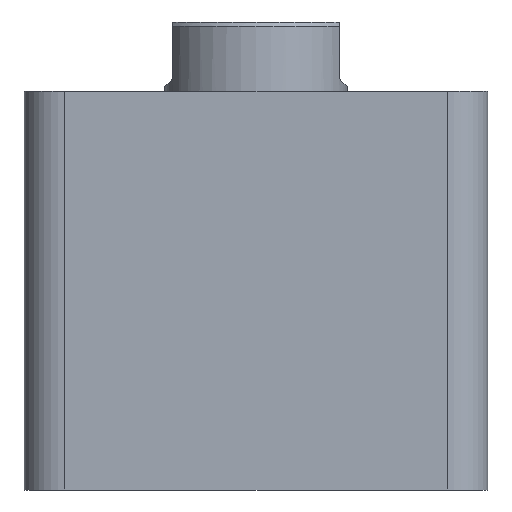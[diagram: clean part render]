
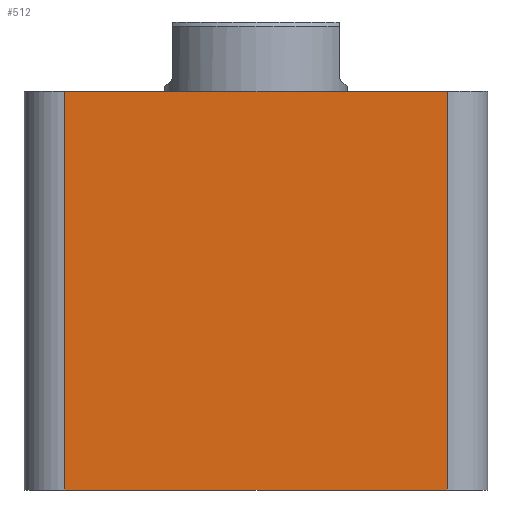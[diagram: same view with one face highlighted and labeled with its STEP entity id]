
A CAD part, front view. The second image highlights one B-rep face of the part: STEP entity #512.
In plain terms, the highlighted planar face has unit normal (0, -1, 0).
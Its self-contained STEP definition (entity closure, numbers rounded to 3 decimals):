
#216 = VERTEX_POINT ( 'NONE', #345 ) ;
#217 = VERTEX_POINT ( 'NONE', #332 ) ;
#219 = VERTEX_POINT ( 'NONE', #338 ) ;
#230 = VERTEX_POINT ( 'NONE', #433 ) ;
#332 = CARTESIAN_POINT ( 'NONE',  ( -47., -57., 98. ) ) ;
#338 = CARTESIAN_POINT ( 'NONE',  ( 47., -57., 0. ) ) ;
#345 = CARTESIAN_POINT ( 'NONE',  ( 47., -57., 98. ) ) ;
#433 = CARTESIAN_POINT ( 'NONE',  ( -47., -57., 0. ) ) ;
#444 = LINE ( 'NONE', #2296, #687 ) ;
#467 = VECTOR ( 'NONE', #2295, 1000. ) ;
#468 = LINE ( 'NONE', #2283, #467 ) ;
#512 = ADVANCED_FACE ( 'NONE', ( #699 ), #1236, .F. ) ;
#648 = LINE ( 'NONE', #2298, #893 ) ;
#687 = VECTOR ( 'NONE', #2297, 1000. ) ;
#699 = FACE_OUTER_BOUND ( 'NONE', #2496, .T. ) ;
#893 = VECTOR ( 'NONE', #2299, 1000. ) ;
#912 = AXIS2_PLACEMENT_3D ( 'NONE', #1228, #1238, #1239 ) ;
#1127 = ORIENTED_EDGE ( 'NONE', *, *, #1481, .T. ) ;
#1130 = ORIENTED_EDGE ( 'NONE', *, *, #1482, .T. ) ;
#1131 = ORIENTED_EDGE ( 'NONE', *, *, #1483, .F. ) ;
#1132 = ORIENTED_EDGE ( 'NONE', *, *, #1484, .T. ) ;
#1211 = VECTOR ( 'NONE', #2294, 1000. ) ;
#1228 = CARTESIAN_POINT ( 'NONE',  ( -57., -57., 98. ) ) ;
#1236 = PLANE ( 'NONE',  #912 ) ;
#1238 = DIRECTION ( 'NONE',  ( 0., 1., 0. ) ) ;
#1239 = DIRECTION ( 'NONE',  ( 0., 0., 1. ) ) ;
#1481 = EDGE_CURVE ( 'NONE', #230, #219, #2647, .T. ) ;
#1482 = EDGE_CURVE ( 'NONE', #219, #216, #468, .T. ) ;
#1483 = EDGE_CURVE ( 'NONE', #217, #216, #444, .T. ) ;
#1484 = EDGE_CURVE ( 'NONE', #217, #230, #648, .T. ) ;
#2283 = CARTESIAN_POINT ( 'NONE',  ( 47., -57., 98. ) ) ;
#2293 = CARTESIAN_POINT ( 'NONE',  ( -57., -57., 0. ) ) ;
#2294 = DIRECTION ( 'NONE',  ( 1., 0., 0. ) ) ;
#2295 = DIRECTION ( 'NONE',  ( 0., 0., 1. ) ) ;
#2296 = CARTESIAN_POINT ( 'NONE',  ( -57., -57., 98. ) ) ;
#2297 = DIRECTION ( 'NONE',  ( 1., 0., 0. ) ) ;
#2298 = CARTESIAN_POINT ( 'NONE',  ( -47., -57., 98. ) ) ;
#2299 = DIRECTION ( 'NONE',  ( 0., 0., -1. ) ) ;
#2496 = EDGE_LOOP ( 'NONE', ( #1127, #1130, #1131, #1132 ) ) ;
#2647 = LINE ( 'NONE', #2293, #1211 ) ;
